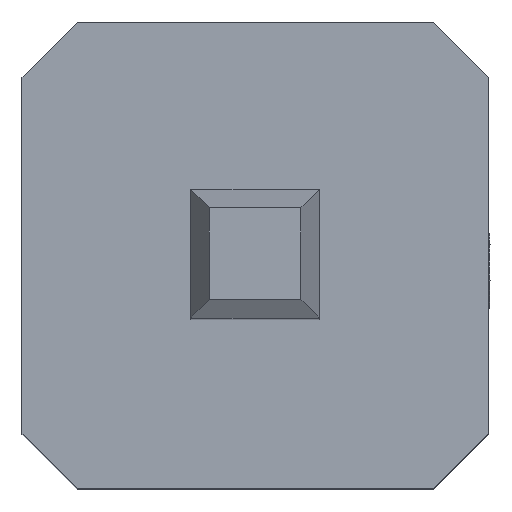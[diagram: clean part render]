
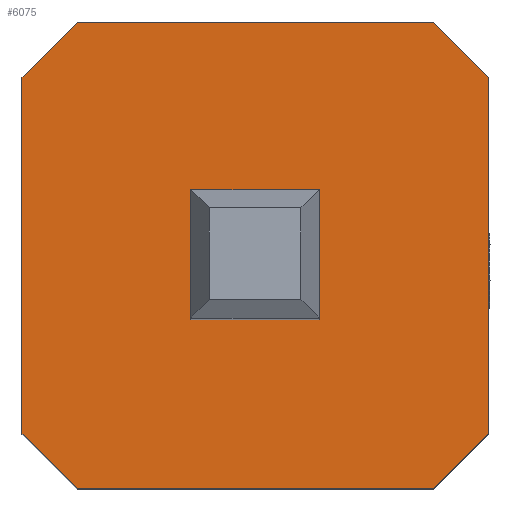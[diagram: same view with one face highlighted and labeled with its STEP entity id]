
A CAD part, top view. The second image highlights one B-rep face of the part: STEP entity #6075.
In plain terms, the highlighted planar face has unit normal (0, 0, 1).
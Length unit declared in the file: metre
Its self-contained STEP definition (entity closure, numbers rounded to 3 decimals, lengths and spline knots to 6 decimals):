
#513=LINE('',#12508,#1042);
#515=LINE('',#12512,#1044);
#517=LINE('',#12516,#1046);
#518=LINE('',#12518,#1047);
#537=LINE('',#12559,#1066);
#538=LINE('',#12562,#1067);
#539=LINE('',#12564,#1068);
#540=LINE('',#12566,#1069);
#541=LINE('',#12568,#1070);
#542=LINE('',#12570,#1071);
#543=LINE('',#12572,#1072);
#544=LINE('',#12574,#1073);
#1042=VECTOR('',#9929,1.);
#1044=VECTOR('',#9933,1.);
#1046=VECTOR('',#9937,1.);
#1047=VECTOR('',#9940,1.);
#1066=VECTOR('',#9971,1.);
#1067=VECTOR('',#9972,1.);
#1068=VECTOR('',#9973,1.);
#1069=VECTOR('',#9974,1.);
#1070=VECTOR('',#9975,1.);
#1071=VECTOR('',#9976,1.);
#1072=VECTOR('',#9977,1.);
#1073=VECTOR('',#9978,1.);
#2702=ORIENTED_EDGE('',*,*,#3798,.T.);
#2703=ORIENTED_EDGE('',*,*,#3799,.T.);
#2704=ORIENTED_EDGE('',*,*,#3800,.T.);
#2705=ORIENTED_EDGE('',*,*,#3801,.T.);
#2706=ORIENTED_EDGE('',*,*,#3802,.T.);
#2707=ORIENTED_EDGE('',*,*,#3803,.T.);
#2708=ORIENTED_EDGE('',*,*,#3804,.T.);
#2709=ORIENTED_EDGE('',*,*,#3805,.T.);
#2710=ORIENTED_EDGE('',*,*,#3774,.F.);
#2711=ORIENTED_EDGE('',*,*,#3776,.F.);
#2712=ORIENTED_EDGE('',*,*,#3778,.F.);
#2713=ORIENTED_EDGE('',*,*,#3779,.F.);
#3774=EDGE_CURVE('',#4348,#4347,#513,.T.);
#3776=EDGE_CURVE('',#4349,#4348,#515,.T.);
#3778=EDGE_CURVE('',#4350,#4349,#517,.T.);
#3779=EDGE_CURVE('',#4347,#4350,#518,.T.);
#3798=EDGE_CURVE('',#4367,#4368,#537,.T.);
#3799=EDGE_CURVE('',#4368,#4369,#538,.T.);
#3800=EDGE_CURVE('',#4369,#4370,#539,.T.);
#3801=EDGE_CURVE('',#4370,#4371,#540,.T.);
#3802=EDGE_CURVE('',#4371,#4372,#541,.T.);
#3803=EDGE_CURVE('',#4372,#4373,#542,.T.);
#3804=EDGE_CURVE('',#4373,#4374,#543,.T.);
#3805=EDGE_CURVE('',#4374,#4367,#544,.T.);
#4347=VERTEX_POINT('',#12505);
#4348=VERTEX_POINT('',#12507);
#4349=VERTEX_POINT('',#12511);
#4350=VERTEX_POINT('',#12515);
#4367=VERTEX_POINT('',#12560);
#4368=VERTEX_POINT('',#12561);
#4369=VERTEX_POINT('',#12563);
#4370=VERTEX_POINT('',#12565);
#4371=VERTEX_POINT('',#12567);
#4372=VERTEX_POINT('',#12569);
#4373=VERTEX_POINT('',#12571);
#4374=VERTEX_POINT('',#12573);
#4883=EDGE_LOOP('',(#2702,#2703,#2704,#2705,#2706,#2707,#2708,#2709));
#4884=EDGE_LOOP('',(#2710,#2711,#2712,#2713));
#5224=FACE_BOUND('',#4883,.T.);
#5225=FACE_BOUND('',#4884,.T.);
#5447=PLANE('',#8468);
#6075=ADVANCED_FACE('',(#5224,#5225),#5447,.T.);
#8468=AXIS2_PLACEMENT_3D('',#12558,#9969,#9970);
#9929=DIRECTION('',(0.,1.,0.));
#9933=DIRECTION('',(1.,0.,0.));
#9937=DIRECTION('',(0.,-1.,0.));
#9940=DIRECTION('',(-1.,0.,0.));
#9969=DIRECTION('',(0.,0.,1.));
#9970=DIRECTION('',(1.,0.,0.));
#9971=DIRECTION('',(0.707,-0.707,0.));
#9972=DIRECTION('',(1.,0.,0.));
#9973=DIRECTION('',(0.707,0.707,0.));
#9974=DIRECTION('',(0.,1.,0.));
#9975=DIRECTION('',(-0.707,0.707,0.));
#9976=DIRECTION('',(-1.,0.,0.));
#9977=DIRECTION('',(-0.707,-0.707,0.));
#9978=DIRECTION('',(0.,-1.,0.));
#12505=CARTESIAN_POINT('',(-0.135176,-0.02671,0.012));
#12507=CARTESIAN_POINT('',(-0.135176,-0.02741,0.012));
#12508=CARTESIAN_POINT('',(-0.135176,-0.02706,0.012));
#12511=CARTESIAN_POINT('',(-0.135876,-0.02741,0.012));
#12512=CARTESIAN_POINT('',(-0.135526,-0.02741,0.012));
#12515=CARTESIAN_POINT('',(-0.135876,-0.02671,0.012));
#12516=CARTESIAN_POINT('',(-0.135876,-0.02706,0.012));
#12518=CARTESIAN_POINT('',(-0.135526,-0.02671,0.012));
#12558=CARTESIAN_POINT('',(-0.135526,-0.02706,0.012));
#12559=CARTESIAN_POINT('',(-0.136796,-0.02803,0.012));
#12560=CARTESIAN_POINT('',(-0.136796,-0.02803,0.012));
#12561=CARTESIAN_POINT('',(-0.136496,-0.02833,0.012));
#12562=CARTESIAN_POINT('',(-0.136496,-0.02833,0.012));
#12563=CARTESIAN_POINT('',(-0.134556,-0.02833,0.012));
#12564=CARTESIAN_POINT('',(-0.134556,-0.02833,0.012));
#12565=CARTESIAN_POINT('',(-0.134256,-0.02803,0.012));
#12566=CARTESIAN_POINT('',(-0.134256,-0.02609,0.012));
#12567=CARTESIAN_POINT('',(-0.134256,-0.02609,0.012));
#12568=CARTESIAN_POINT('',(-0.134556,-0.02579,0.012));
#12569=CARTESIAN_POINT('',(-0.134556,-0.02579,0.012));
#12570=CARTESIAN_POINT('',(-0.136496,-0.02579,0.012));
#12571=CARTESIAN_POINT('',(-0.136496,-0.02579,0.012));
#12572=CARTESIAN_POINT('',(-0.136796,-0.02609,0.012));
#12573=CARTESIAN_POINT('',(-0.136796,-0.02609,0.012));
#12574=CARTESIAN_POINT('',(-0.136796,-0.02609,0.012));
